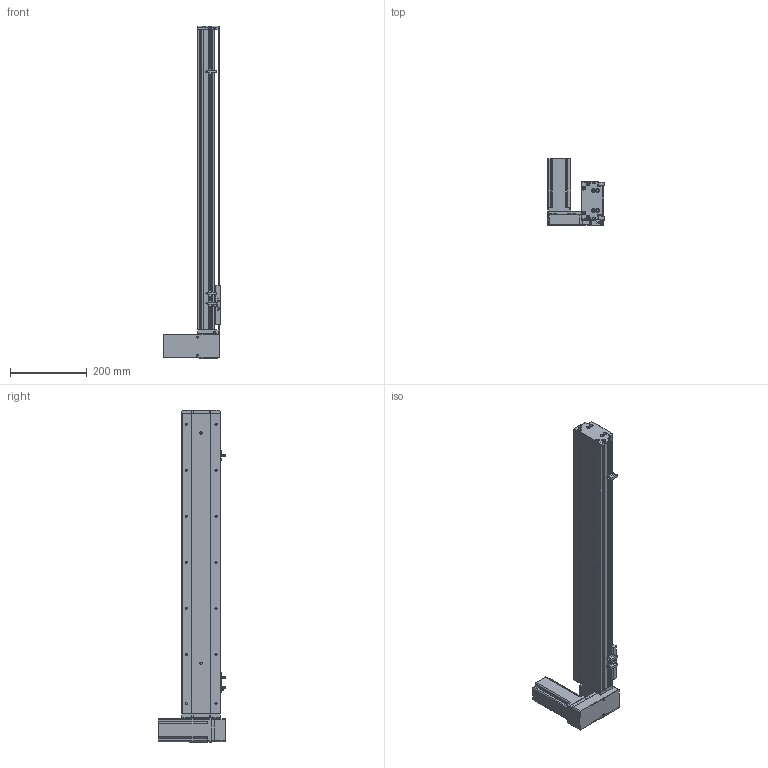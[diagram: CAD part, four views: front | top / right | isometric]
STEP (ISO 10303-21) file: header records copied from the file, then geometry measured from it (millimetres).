
FILE_DESCRIPTION (( 'STEP AP214' ), '1' );
FILE_NAME ('KSD100B-S600-MRD-CM.STEP', '2019-10-16T07:42:44', ( '微软用户' ), ( '微软中国' ), 'SwSTEP 2.0', 'SolidWorks 2014', '' );
FILE_SCHEMA (( 'AUTOMOTIVE_DESIGN' ));
Length unit declared in the file: millimetre
Products named in the file (12): 100宽底板半封闭同步带600行程; KSD100B-S600-MRD-CM; 悵誘欶奻狟殏; 100宽马达安装板连板上下折丝杆同步带; 台达ECMA－C20604AS伺服电机; U倰嫖萇EEㄜSX672; 覜茼え100遵圉猾敕; 100宽防尘板600行程-同步带; 100宽马达安装板同步带右; 100宽同步带安装板半封闭; 100宽马达安装板同步带; 100遵傷啣肮祭湍
Assembly tree (13 placements, depth 2):
  KSD100B-S600-MRD-CM
    100宽底板半封闭同步带600行程
    100遵傷啣肮祭湍
    100宽马达安装板同步带
    100宽同步带安装板半封闭
    100宽马达安装板同步带右
    100宽防尘板600行程-同步带
    覜茼え100遵圉猾敕
    U倰嫖萇EEㄜSX672  x3
    台达ECMA－C20604AS伺服电机
    100宽马达安装板连板上下折丝杆同步带
    悵誘欶奻狟殏
Bounding box: 148 x 174.7 x 865 mm (x, y, z)
Volume: 2188265 mm3; surface area: 703488.9 mm2
Topology: 14 solids, 14 shells, 1359 faces, 3806 edges, 2437 vertices
Faces by surface type: cylinder 669, plane 579, cone 111
Entity records: 47371 total; most frequent: CARTESIAN_POINT 8900, DIRECTION 6570, ORIENTED_EDGE 6296, EDGE_CURVE 3148, AXIS2_PLACEMENT_3D 2389, VERTEX_POINT 2061, VECTOR 1792, LINE 1792
